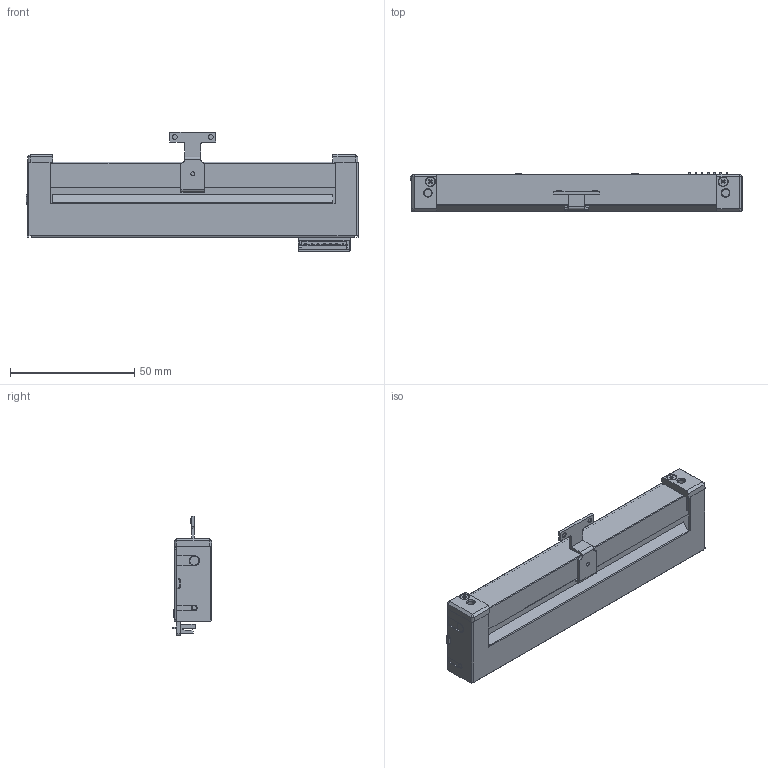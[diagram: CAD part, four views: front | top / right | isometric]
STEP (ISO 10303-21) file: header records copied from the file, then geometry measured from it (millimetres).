
FILE_DESCRIPTION(('FreeCAD Model'),'2;1');
FILE_NAME('Open CASCADE Shape Model','2024-07-24T17:18:06',(''),(''), 'Open CASCADE STEP processor 7.6','FreeCAD','Unknown');
FILE_SCHEMA(('AUTOMOTIVE_DESIGN { 1 0 10303 214 1 1 1 1 }'));
Length unit declared in the file: millimetre
Products named in the file (1): fa9101-b10k
Bounding box: 133.8 x 15.8 x 48.3 mm (x, y, z)
Volume: 49869.6 mm3; surface area: 26741.2 mm2
Topology: 1 solids, 11 shells, 680 faces, 1730 edges, 1078 vertices
Faces by surface type: plane 535, cylinder 102, cone 26, torus 11, revolution 4, sphere 2
Full cylindrical faces by diameter (mm): 1 x7, 1.1 x2, 1.5 x2, 1.6 x5, 2 x15, 2.2 x7, 2.6 x3, 3 x2, 3.6 x2, 4 x8
Entity records: 45440 total; most frequent: CARTESIAN_POINT 8812, DIRECTION 6014, LINE 3849, VECTOR 3849, ORIENTED_EDGE 3452, PCURVE 3452, DEFINITIONAL_REPRESENTATION 3452, EDGE_CURVE 1726
